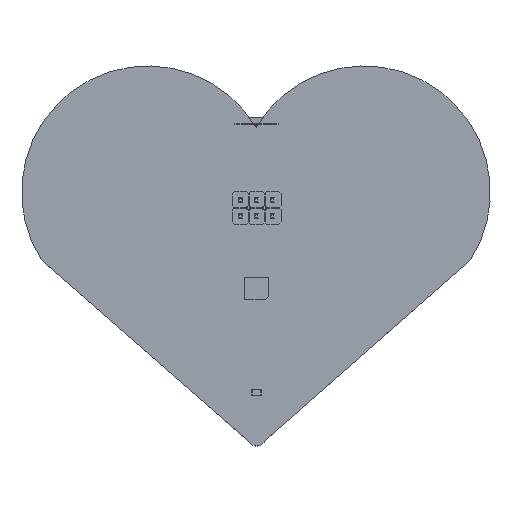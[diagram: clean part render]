
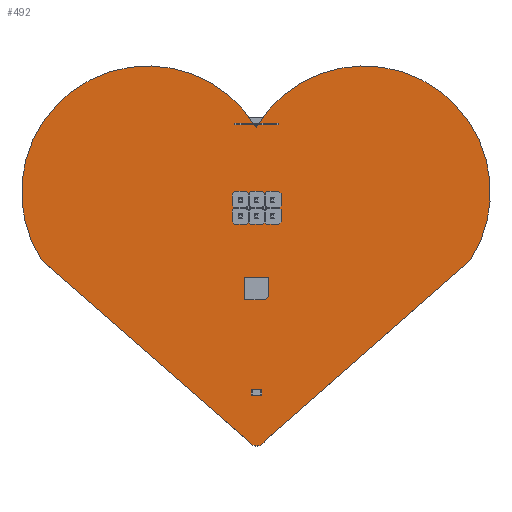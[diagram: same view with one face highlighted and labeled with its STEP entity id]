
A CAD part, top view. The second image highlights one B-rep face of the part: STEP entity #492.
In plain terms, the highlighted planar face has unit normal (0, 0, 1).
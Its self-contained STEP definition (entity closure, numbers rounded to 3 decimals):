
#71 = VERTEX_POINT('',#72);
#72 = CARTESIAN_POINT('',(69.948,49.006,1.646));
#79 = PLANE('',#80);
#80 = AXIS2_PLACEMENT_3D('',#81,#82,#83);
#81 = CARTESIAN_POINT('',(69.948,49.006,0.));
#82 = DIRECTION('',(-0.658,-0.753,0.));
#83 = DIRECTION('',(-0.753,0.658,0.));
#91 = CYLINDRICAL_SURFACE('',#92,1.5);
#92 = AXIS2_PLACEMENT_3D('',#93,#94,#95);
#93 = CARTESIAN_POINT('',(71.25,49.75,0.));
#94 = DIRECTION('',(0.,0.,-1.));
#95 = DIRECTION('',(0.874,-0.486,0.));
#103 = EDGE_CURVE('',#71,#104,#106,.T.);
#104 = VERTEX_POINT('',#105);
#105 = CARTESIAN_POINT('',(37.231,77.6,1.646));
#106 = SURFACE_CURVE('',#107,(#111,#118),.PCURVE_S1.);
#107 = LINE('',#108,#109);
#108 = CARTESIAN_POINT('',(69.948,49.006,1.646));
#109 = VECTOR('',#110,1.);
#110 = DIRECTION('',(-0.753,0.658,0.));
#111 = PCURVE('',#79,#112);
#112 = DEFINITIONAL_REPRESENTATION('',(#113),#117);
#113 = LINE('',#114,#115);
#114 = CARTESIAN_POINT('',(0.,-1.646));
#115 = VECTOR('',#116,1.);
#116 = DIRECTION('',(1.,0.));
#117 = ( GEOMETRIC_REPRESENTATION_CONTEXT(2) 
PARAMETRIC_REPRESENTATION_CONTEXT() REPRESENTATION_CONTEXT('2D SPACE',''
  ) );
#118 = PCURVE('',#119,#124);
#119 = PLANE('',#120);
#120 = AXIS2_PLACEMENT_3D('',#121,#122,#123);
#121 = CARTESIAN_POINT('',(69.948,49.006,1.646));
#122 = DIRECTION('',(0.,0.,1.));
#123 = DIRECTION('',(1.,0.,0.));
#124 = DEFINITIONAL_REPRESENTATION('',(#125),#129);
#125 = LINE('',#126,#127);
#126 = CARTESIAN_POINT('',(0.,0.));
#127 = VECTOR('',#128,1.);
#128 = DIRECTION('',(-0.753,0.658));
#129 = ( GEOMETRIC_REPRESENTATION_CONTEXT(2) 
PARAMETRIC_REPRESENTATION_CONTEXT() REPRESENTATION_CONTEXT('2D SPACE',''
  ) );
#147 = CYLINDRICAL_SURFACE('',#148,20.);
#148 = AXIS2_PLACEMENT_3D('',#149,#150,#151);
#149 = CARTESIAN_POINT('',(54.,88.5,0.));
#150 = DIRECTION('',(0.,0.,-1.));
#151 = DIRECTION('',(-0.838,-0.545,0.));
#189 = EDGE_CURVE('',#104,#190,#192,.T.);
#190 = VERTEX_POINT('',#191);
#191 = CARTESIAN_POINT('',(71.15,98.79,1.646));
#192 = SURFACE_CURVE('',#193,(#198,#205),.PCURVE_S1.);
#193 = CIRCLE('',#194,20.);
#194 = AXIS2_PLACEMENT_3D('',#195,#196,#197);
#195 = CARTESIAN_POINT('',(54.,88.5,1.646));
#196 = DIRECTION('',(0.,0.,-1.));
#197 = DIRECTION('',(-0.838,-0.545,0.));
#198 = PCURVE('',#147,#199);
#199 = DEFINITIONAL_REPRESENTATION('',(#200),#204);
#200 = LINE('',#201,#202);
#201 = CARTESIAN_POINT('',(0.,-1.646));
#202 = VECTOR('',#203,1.);
#203 = DIRECTION('',(1.,0.));
#204 = ( GEOMETRIC_REPRESENTATION_CONTEXT(2) 
PARAMETRIC_REPRESENTATION_CONTEXT() REPRESENTATION_CONTEXT('2D SPACE',''
  ) );
#205 = PCURVE('',#119,#206);
#206 = DEFINITIONAL_REPRESENTATION('',(#207),#215);
#207 = ( BOUNDED_CURVE() B_SPLINE_CURVE(2,(#208,#209,#210,#211,#212,#213
,#214),.UNSPECIFIED.,.F.,.F.) B_SPLINE_CURVE_WITH_KNOTS((1,2,2,2,2,1),(
    -2.094,0.,2.094,4.189,6.283,
8.378),.UNSPECIFIED.) CURVE() GEOMETRIC_REPRESENTATION_ITEM() 
RATIONAL_B_SPLINE_CURVE((1.,0.5,1.,0.5,1.,0.5,1.)) REPRESENTATION_ITEM(
  '') );
#208 = CARTESIAN_POINT('',(-32.716,28.594));
#209 = CARTESIAN_POINT('',(-51.595,57.639));
#210 = CARTESIAN_POINT('',(-17.003,59.466));
#211 = CARTESIAN_POINT('',(17.59,61.294));
#212 = CARTESIAN_POINT('',(1.876,30.422));
#213 = CARTESIAN_POINT('',(-13.837,-0.45));
#214 = CARTESIAN_POINT('',(-32.716,28.594));
#215 = ( GEOMETRIC_REPRESENTATION_CONTEXT(2) 
PARAMETRIC_REPRESENTATION_CONTEXT() REPRESENTATION_CONTEXT('2D SPACE',''
  ) );
#233 = CYLINDRICAL_SURFACE('',#234,20.);
#234 = AXIS2_PLACEMENT_3D('',#235,#236,#237);
#235 = CARTESIAN_POINT('',(88.3,88.5,0.));
#236 = DIRECTION('',(0.,0.,-1.));
#237 = DIRECTION('',(-0.857,0.514,0.));
#275 = EDGE_CURVE('',#190,#276,#278,.T.);
#276 = VERTEX_POINT('',#277);
#277 = CARTESIAN_POINT('',(105.068,77.6,1.646));
#278 = SURFACE_CURVE('',#279,(#284,#291),.PCURVE_S1.);
#279 = CIRCLE('',#280,20.);
#280 = AXIS2_PLACEMENT_3D('',#281,#282,#283);
#281 = CARTESIAN_POINT('',(88.3,88.5,1.646));
#282 = DIRECTION('',(0.,0.,-1.));
#283 = DIRECTION('',(-0.857,0.514,0.));
#284 = PCURVE('',#233,#285);
#285 = DEFINITIONAL_REPRESENTATION('',(#286),#290);
#286 = LINE('',#287,#288);
#287 = CARTESIAN_POINT('',(0.,-1.646));
#288 = VECTOR('',#289,1.);
#289 = DIRECTION('',(1.,0.));
#290 = ( GEOMETRIC_REPRESENTATION_CONTEXT(2) 
PARAMETRIC_REPRESENTATION_CONTEXT() REPRESENTATION_CONTEXT('2D SPACE',''
  ) );
#291 = PCURVE('',#119,#292);
#292 = DEFINITIONAL_REPRESENTATION('',(#293),#301);
#293 = ( BOUNDED_CURVE() B_SPLINE_CURVE(2,(#294,#295,#296,#297,#298,#299
,#300),.UNSPECIFIED.,.F.,.F.) B_SPLINE_CURVE_WITH_KNOTS((1,2,2,2,2,1),(
    -2.094,0.,2.094,4.189,6.283,
8.378),.UNSPECIFIED.) CURVE() GEOMETRIC_REPRESENTATION_ITEM() 
RATIONAL_B_SPLINE_CURVE((1.,0.5,1.,0.5,1.,0.5,1.)) REPRESENTATION_ITEM(
  '') );
#294 = CARTESIAN_POINT('',(1.202,49.784));
#295 = CARTESIAN_POINT('',(19.025,79.489));
#296 = CARTESIAN_POINT('',(35.838,49.201));
#297 = CARTESIAN_POINT('',(52.652,18.914));
#298 = CARTESIAN_POINT('',(18.016,19.497));
#299 = CARTESIAN_POINT('',(-16.621,20.08));
#300 = CARTESIAN_POINT('',(1.202,49.784));
#301 = ( GEOMETRIC_REPRESENTATION_CONTEXT(2) 
PARAMETRIC_REPRESENTATION_CONTEXT() REPRESENTATION_CONTEXT('2D SPACE',''
  ) );
#319 = PLANE('',#320);
#320 = AXIS2_PLACEMENT_3D('',#321,#322,#323);
#321 = CARTESIAN_POINT('',(105.068,77.6,0.));
#322 = DIRECTION('',(0.66,-0.751,0.));
#323 = DIRECTION('',(-0.751,-0.66,0.));
#361 = EDGE_CURVE('',#276,#362,#364,.T.);
#362 = VERTEX_POINT('',#363);
#363 = CARTESIAN_POINT('',(72.561,49.021,1.646));
#364 = SURFACE_CURVE('',#365,(#369,#376),.PCURVE_S1.);
#365 = LINE('',#366,#367);
#366 = CARTESIAN_POINT('',(105.068,77.6,1.646));
#367 = VECTOR('',#368,1.);
#368 = DIRECTION('',(-0.751,-0.66,0.));
#369 = PCURVE('',#319,#370);
#370 = DEFINITIONAL_REPRESENTATION('',(#371),#375);
#371 = LINE('',#372,#373);
#372 = CARTESIAN_POINT('',(0.,-1.646));
#373 = VECTOR('',#374,1.);
#374 = DIRECTION('',(1.,0.));
#375 = ( GEOMETRIC_REPRESENTATION_CONTEXT(2) 
PARAMETRIC_REPRESENTATION_CONTEXT() REPRESENTATION_CONTEXT('2D SPACE',''
  ) );
#376 = PCURVE('',#119,#377);
#377 = DEFINITIONAL_REPRESENTATION('',(#378),#382);
#378 = LINE('',#379,#380);
#379 = CARTESIAN_POINT('',(35.121,28.594));
#380 = VECTOR('',#381,1.);
#381 = DIRECTION('',(-0.751,-0.66));
#382 = ( GEOMETRIC_REPRESENTATION_CONTEXT(2) 
PARAMETRIC_REPRESENTATION_CONTEXT() REPRESENTATION_CONTEXT('2D SPACE',''
  ) );
#432 = EDGE_CURVE('',#362,#71,#433,.T.);
#433 = SURFACE_CURVE('',#434,(#439,#446),.PCURVE_S1.);
#434 = CIRCLE('',#435,1.5);
#435 = AXIS2_PLACEMENT_3D('',#436,#437,#438);
#436 = CARTESIAN_POINT('',(71.25,49.75,1.646));
#437 = DIRECTION('',(0.,0.,-1.));
#438 = DIRECTION('',(0.874,-0.486,0.));
#439 = PCURVE('',#91,#440);
#440 = DEFINITIONAL_REPRESENTATION('',(#441),#445);
#441 = LINE('',#442,#443);
#442 = CARTESIAN_POINT('',(0.,-1.646));
#443 = VECTOR('',#444,1.);
#444 = DIRECTION('',(1.,0.));
#445 = ( GEOMETRIC_REPRESENTATION_CONTEXT(2) 
PARAMETRIC_REPRESENTATION_CONTEXT() REPRESENTATION_CONTEXT('2D SPACE',''
  ) );
#446 = PCURVE('',#119,#447);
#447 = DEFINITIONAL_REPRESENTATION('',(#448),#456);
#448 = ( BOUNDED_CURVE() B_SPLINE_CURVE(2,(#449,#450,#451,#452,#453,#454
,#455),.UNSPECIFIED.,.F.,.F.) B_SPLINE_CURVE_WITH_KNOTS((1,2,2,2,2,1),(
    -2.094,0.,2.094,4.189,6.283,
8.378),.UNSPECIFIED.) CURVE() GEOMETRIC_REPRESENTATION_ITEM() 
RATIONAL_B_SPLINE_CURVE((1.,0.5,1.,0.5,1.,0.5,1.)) REPRESENTATION_ITEM(
  '') );
#449 = CARTESIAN_POINT('',(2.613,0.015));
#450 = CARTESIAN_POINT('',(1.351,-2.255));
#451 = CARTESIAN_POINT('',(0.016,-0.027));
#452 = CARTESIAN_POINT('',(-1.32,2.202));
#453 = CARTESIAN_POINT('',(1.278,2.244));
#454 = CARTESIAN_POINT('',(3.876,2.286));
#455 = CARTESIAN_POINT('',(2.613,0.015));
#456 = ( GEOMETRIC_REPRESENTATION_CONTEXT(2) 
PARAMETRIC_REPRESENTATION_CONTEXT() REPRESENTATION_CONTEXT('2D SPACE',''
  ) );
#492 = ADVANCED_FACE('',(#493),#119,.T.);
#493 = FACE_BOUND('',#494,.F.);
#494 = EDGE_LOOP('',(#495,#496,#497,#498,#499));
#495 = ORIENTED_EDGE('',*,*,#103,.T.);
#496 = ORIENTED_EDGE('',*,*,#189,.T.);
#497 = ORIENTED_EDGE('',*,*,#275,.T.);
#498 = ORIENTED_EDGE('',*,*,#361,.T.);
#499 = ORIENTED_EDGE('',*,*,#432,.T.);
